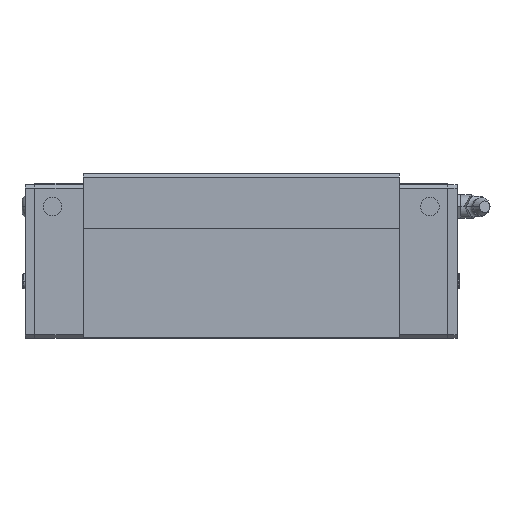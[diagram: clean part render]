
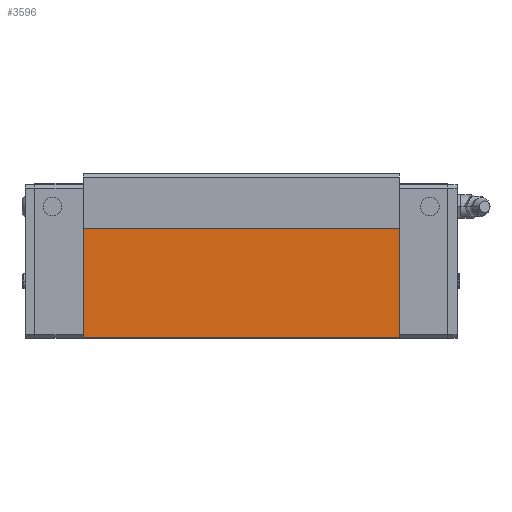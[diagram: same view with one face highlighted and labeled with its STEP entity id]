
A CAD part, left-side view. The second image highlights one B-rep face of the part: STEP entity #3596.
In plain terms, the highlighted planar face has unit normal (-1, 0, 0).
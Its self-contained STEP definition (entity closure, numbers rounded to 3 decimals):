
#1494=VERTEX_POINT('',#4405);
#2080=EDGE_CURVE('',#3310,#3214,#5043,.T.);
#2504=EDGE_CURVE('',#3764,#3310,#5512,.T.);
#3214=VERTEX_POINT('',#6300);
#3310=VERTEX_POINT('',#6406);
#3562=EDGE_CURVE('',#3214,#1494,#6691,.T.);
#3566=EDGE_CURVE('',#3764,#1494,#6695,.T.);
#3596=ADVANCED_FACE('',(#6729),#6730,.T.);
#3764=VERTEX_POINT('',#6919);
#4405=CARTESIAN_POINT('',(-61.75,170.7,65.0));
#5043=LINE('',#8626,#8627);
#5512=LINE('',#9350,#9351);
#6300=CARTESIAN_POINT('',(-61.75,170.7,15.25));
#6406=CARTESIAN_POINT('',(-61.75,26.5,15.25));
#6691=LINE('',#11159,#11160);
#6695=LINE('',#11165,#11166);
#6729=FACE_OUTER_BOUND('',#11214,.T.);
#6730=PLANE('',#11215);
#6919=CARTESIAN_POINT('',(-61.75,26.5,65.0));
#8626=CARTESIAN_POINT('',(-61.75,134.65,15.25));
#8627=VECTOR('',#13126,1.0);
#9350=CARTESIAN_POINT('',(-61.75,26.5,36.25));
#9351=VECTOR('',#13670,1.0);
#11159=CARTESIAN_POINT('',(-61.75,170.7,36.25));
#11160=VECTOR('',#15025,1.0);
#11165=CARTESIAN_POINT('',(-61.75,98.6,65.0));
#11166=VECTOR('',#15026,1.0);
#11214=EDGE_LOOP('',(#15058,#15059,#15060,#15061));
#11215=AXIS2_PLACEMENT_3D('',#15062,#15063,#15064);
#13126=DIRECTION('',(0.0,1.0,-0.0));
#13670=DIRECTION('',(-0.0,-0.0,-1.0));
#15025=DIRECTION('',(0.0,0.0,1.0));
#15026=DIRECTION('',(0.0,1.0,0.0));
#15058=ORIENTED_EDGE('',*,*,#3562,.F.);
#15059=ORIENTED_EDGE('',*,*,#2080,.F.);
#15060=ORIENTED_EDGE('',*,*,#2504,.F.);
#15061=ORIENTED_EDGE('',*,*,#3566,.T.);
#15062=CARTESIAN_POINT('',(-61.75,98.6,20.0));
#15063=DIRECTION('',(-1.0,0.0,0.0));
#15064=DIRECTION('',(0.0,0.0,1.0));
